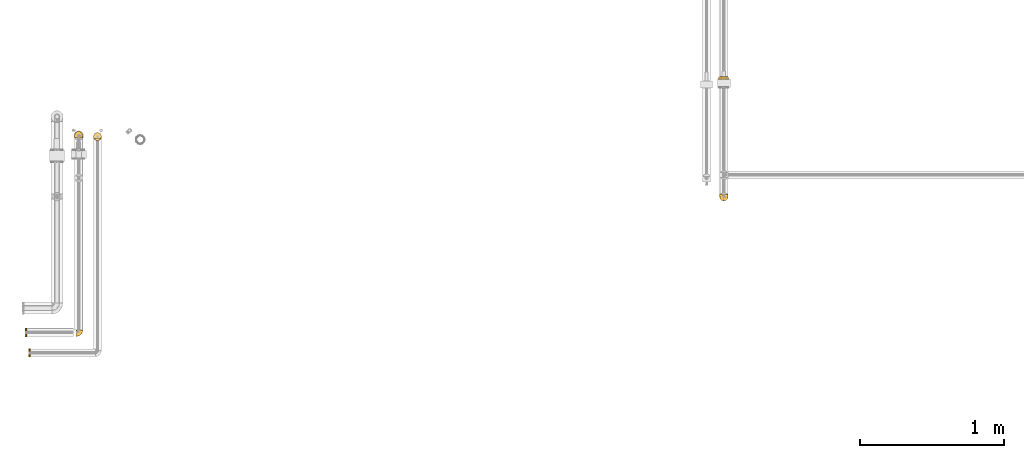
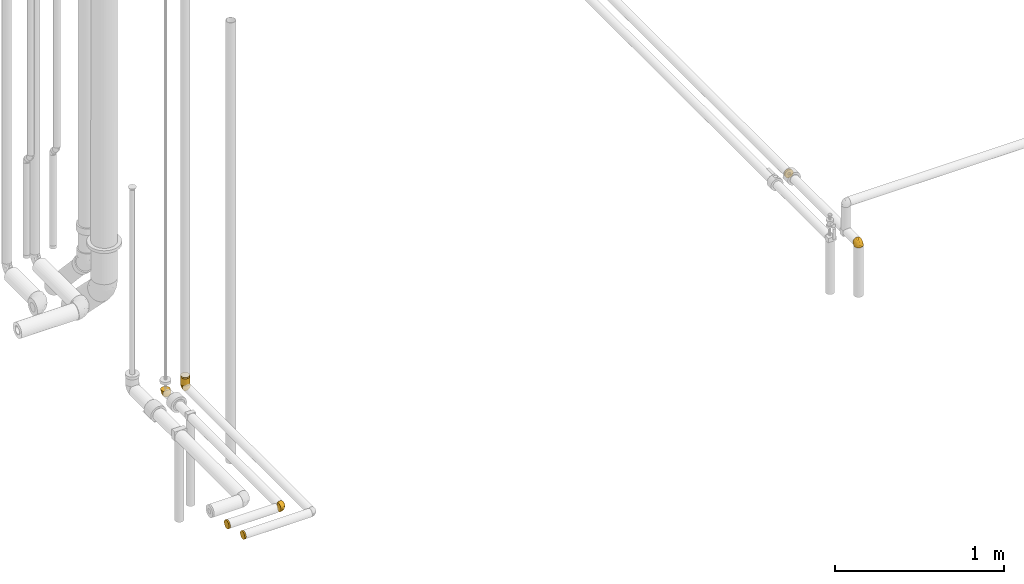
# One storey, part 4 of 78: 10 coverings.
"""IFC2X3 building model written with IfcOpenShell, lengths in millimetres."""

from ifc_helpers import new_model, entity, si_unit, converted_unit, derived_unit, direction, frame, origin_with_axes, origin_2d_with_axis, place, context, subcontext, project, spatial, hollow_circle, extrude, open_shell, surface_model, source, transform, mapped, element, save


model = new_model("IFC2X3")

# Units and contexts
model_context = context("Model", 3, precision=0.01, world=frame((0.0, 4.29681676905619e-09, 0.0)), true_north=direction((4.01073788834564e-13, 1.0)))
plan_context = context("Plan", 3, precision=0.01, world=frame((0.0, 4.29681676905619e-09, 0.0)), true_north=direction((4.01073788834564e-13, 1.0)))
body_context = subcontext(model_context, "Body", "Model", "MODEL_VIEW")
ifc_project = project(units=[converted_unit("PLANEANGLEUNIT", "DEGREE", entity("IfcPositiveLengthMeasure", 0.0174532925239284), si_unit("PLANEANGLEUNIT", "RADIAN"), dimensions=[0, 0, 0, 0, 0, 0, 0]), si_unit("AREAUNIT", "SQUARE_METRE"), si_unit("LENGTHUNIT", "METRE", prefix="MILLI"), si_unit("MASSUNIT", "GRAM", prefix="KILO"), si_unit("POWERUNIT", "WATT"), si_unit("PRESSUREUNIT", "PASCAL"), si_unit("FORCEUNIT", "NEWTON", prefix="KILO"), si_unit("ELECTRICVOLTAGEUNIT", "VOLT"), si_unit("ELECTRICCURRENTUNIT", "AMPERE"), si_unit("THERMODYNAMICTEMPERATUREUNIT", "DEGREE_CELSIUS"), si_unit("TIMEUNIT", "SECOND"), si_unit("VOLUMEUNIT", "CUBIC_METRE"), derived_unit("LINEARVELOCITYUNIT", [(si_unit("LENGTHUNIT", "METRE"), 1), (si_unit("TIMEUNIT", "SECOND"), -1)]), derived_unit("VOLUMETRICFLOWRATEUNIT", [(si_unit("VOLUMEUNIT", "CUBIC_METRE"), 1), (si_unit("TIMEUNIT", "SECOND"), -1)]), derived_unit("THERMALTRANSMITTANCEUNIT", [(si_unit("POWERUNIT", "WATT"), 1), (si_unit("THERMODYNAMICTEMPERATUREUNIT", "KELVIN"), -1), (si_unit("AREAUNIT", "SQUARE_METRE"), -1)]), derived_unit("SOUNDPRESSUREUNIT", [(si_unit("PRESSUREUNIT", "PASCAL"), 1)])], contexts=[model_context, plan_context])

# Site, building, storey
site_placement = place(None, frame((0.0, -4.29681676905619e-09, 0.0), z_axis=(0.0, 0.0, 1.0), x_axis=(1.0, 0.0, 0.0)))
site = spatial("IfcSite", under=ifc_project, at=site_placement, Name="ENGM", CompositionType="ELEMENT")
building_placement = place(site_placement, frame((0.0, 4.29681676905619e-09, 0.0), z_axis=(0.0, 0.0, 1.0), x_axis=(1.0, 0.0, 0.0)))
building = spatial("IfcBuilding", under=site, at=building_placement, Name="TH", CompositionType="ELEMENT")
storey_placement = place(building_placement, frame((0.0, 0.0, 205200.0), z_axis=(0.0, 0.0, 1.0), x_axis=(1.0, 0.0, 0.0)))
storey = spatial("IfcBuildingStorey", under=building, at=storey_placement, Name="Nivå D + 1,2 m", CompositionType="ELEMENT", Elevation=205200.0)

# Coverings
shared_shape_1 = source(origin_with_axes(), body_context, "Body", "SweptSolid", [
    extrude(hollow_circle(Radius=29.0, WallThickness=20.0, at=origin_2d_with_axis()), frame((0.0, 0.0, 0.0), z_axis=(1.0, 0.0, 0.0), x_axis=(0.0, 1.0, 0.0)), (0.0, 0.0, 1.0), 3.0),
])
covering_1_placement = place(storey_placement, frame((900010.50163, 478947.96045, 4210.0), z_axis=(0.0, 0.0, 1.0), x_axis=(0.0, -1.0, 0.0)))
element("IfcCovering", 1, at=covering_1_placement, inside=storey, Name="BI20T - Cellegummi 13 mm kalde rør", PredefinedType="INSULATION", context=body_context, shape_type="MappedRepresentation", body=[
    mapped(shared_shape_1, transform((0.0, 0.0, 0.0), scale=1.0)),
])
shared_shape_2 = source(origin_with_axes(), body_context, "Body", "SweptSolid", [
    extrude(hollow_circle(Radius=27.5, WallThickness=20.0, at=origin_2d_with_axis()), frame((0.0, 0.0, 0.0), z_axis=(1.0, 0.0, 0.0), x_axis=(0.0, 1.0, 0.0)), (0.0, 0.0, 1.0), 52.1),
])
covering_2_placement = place(storey_placement, frame((895651.15, 478542.5375, 4517.13214999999), z_axis=(1.0, 0.0, 0.0), x_axis=(0.0, 3.999999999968e-06, -0.999999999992)))
element("IfcCovering", 2, at=covering_2_placement, inside=storey, Name="Rørskål m/Al.folje - Varme 55 (uisolert oppheng)", PredefinedType="INSULATION", context=body_context, shape_type="MappedRepresentation", body=[
    mapped(shared_shape_2, transform((0.0, 0.0, 0.0), scale=1.0)),
])
shared_shape_3 = source(origin_with_axes(), body_context, "Body", "SurfaceModel", [
    surface_model("IfcShellBasedSurfaceModel", [(12.5872, 18.0, 26.12589), (18.08563, 18.0, 22.66959), (22.67648, 18.0, 18.07698), (26.13012, 18.0, 12.57843), (28.27375, 18.0, 6.44942), (-6.31725, 18.0, 28.30358), (-17.77173, 18.0, -22.9165), (0.0, 18.0, 29.0), (6.45633, 18.0, 28.27217), (-17.77173, 18.0, 22.9165), (-12.34105, 18.0, 26.24307), (28.27217, 18.0, -6.45633), (22.66959, 18.0, -18.08563), (26.12589, 18.0, -12.5872), (18.07698, 18.0, -22.67648), (-12.3529, 18.0, -26.23749), (-6.33004, 18.0, -28.30072), (6.44942, 18.0, -28.27375), (12.57843, 18.0, -26.13012), (0.0, 18.0, -29.0), (29.0, 18.0, 0.0), (-18.0, 17.77173, 22.9165), (-18.0, 17.77173, -22.9165), (-18.0, 12.34563, -26.24091), (-18.0, 6.32509, -28.30182), (-18.0, 0.0, -29.0), (-18.0, 0.0, 29.0), (-18.0, 12.34563, 26.24091), (-18.0, 6.32509, 28.30182), (-18.0, -14.5, 25.11474), (-18.0, -7.50575, 28.01185), (-18.0, -7.50575, -28.01185), (-18.0, -14.5, -25.11474), (-18.0, -28.01185, -7.50575), (-18.0, -25.11474, -14.5), (-18.0, -20.5061, -20.5061), (-18.0, -28.01185, 7.50575), (-18.0, -20.5061, 20.5061), (-18.0, -25.11474, 14.5), (-18.0, -29.0, 0.0), (-17.83859, 17.83859, 22.9165), (-17.83859, 17.83859, -22.9165), (-11.91423, 11.9123, -27.437), (-5.27208, 5.27208, -29.0), (-15.63786, 14.48961, -25.5229), (25.93601, 6.67854, -9.58205), (27.02342, 8.06308, 0.0), (-11.58944, -10.38288, -26.79251), (-8.72435, -16.42638, -23.00725), (-2.15074, -19.82057, -17.65408), (-10.78654, -22.36781, -17.65408), (-10.90925, -4.53647, -28.44912), (-4.56412, -7.81008, -26.79251), (1.42942, -22.15165, -11.53878), (4.08186, -22.64535, -6.52508), (-4.04847, -26.34204, -5.44064), (-6.34693, -25.25014, -11.09782), (8.70204, 11.12014, -27.37401), (12.30526, -12.14334, -15.12435), (15.68692, -5.11925, -17.84797), (18.58838, -6.20359, -13.10629), (-1.45635, 14.48406, -29.0), (20.49628, -7.02537, -7.85654), (-14.48406, 1.45635, -29.0), (17.63513, 1.45693, -19.69333), (20.97621, 0.92546, -15.43347), (14.81555, 11.64794, -24.55768), (19.28448, 8.39344, -20.51001), (12.61582, 4.58807, -24.55768), (4.16849, 4.09476, -27.82577), (3.89702, -4.58536, -25.68841), (-2.23671, -1.20763, -28.17991), (0.57021, -13.0879, -22.56817), (9.4476, -9.00088, -20.51001), (23.77672, 9.91353, -15.43347), (25.42234, 0.01388, 0.0), (15.09054, -13.36351, -8.92567), (-8.45406, 3.95406, -29.0), (-6.64688, -2.8871, -28.41954), (-11.63604, 2.63604, -29.0), (-2.9127, 10.96811, -29.0), (15.23402, -15.23402, 0.0), (20.32818, -7.61007, 0.0), (8.70429, -18.28971, -10.43847), (11.53611, -17.98985, -5.04364), (5.36399, -15.33486, -18.03817), (-8.06308, -27.02342, 0.0), (8.1898, 0.02909, -25.52631), (12.51117, -2.09819, -22.30296), (-4.09239, 8.1201, -29.0), (-0.01388, -25.42234, 0.0), (7.61007, -20.32818, 0.0), (-2.15312, -19.82156, 17.65408), (0.57215, -13.08608, 22.56863), (-8.72508, -16.42658, 23.00725), (-4.04847, -26.34203, 5.4407), (-10.78795, -22.36806, 17.65408), (-6.34785, -25.25039, 11.09782), (25.939, 6.67899, 9.57411), (1.43206, -22.14749, 11.54476), (-11.58944, -10.38288, 26.79251), (20.50587, -7.01305, 7.85179), (20.98134, 0.92337, 15.42467), (4.16859, 4.08516, 27.82424), (8.70955, 11.11747, 27.37123), (-2.9127, 10.96811, 29.0), (8.71076, -18.28571, 10.43687), (11.53628, -17.99007, 5.04207), (15.09914, -13.35631, 8.92169), (12.51139, -2.10414, 22.30009), (8.20363, 0.03075, 25.52066), (3.90743, -4.56802, 25.69113), (-2.23663, -1.20773, 28.17988), (-6.92531, -2.24067, 28.55295), (-4.56412, -7.81008, 26.79251), (15.69231, -5.11628, 17.84442), (9.45318, -9.00636, 20.50219), (12.31497, -12.1393, 15.11775), (23.78211, 9.91229, 15.42467), (19.29205, 8.39148, 20.50219), (14.82422, 11.64641, 24.55215), (12.62384, 4.58443, 24.55215), (17.64599, 1.45836, 19.68333), (-11.63604, 2.63604, 29.0), (-14.48406, 1.45635, 29.0), (-10.90925, -4.53647, 28.44912), (5.3697, -15.3417, 18.027), (-1.45635, 14.48406, 29.0), (4.08207, -22.64476, 6.52689), (-5.27208, 5.27208, 29.0), (-4.09239, 8.1201, 29.0), (-8.45406, 3.95406, 29.0), (18.10711, -6.95019, 13.06771), (-11.91423, 11.9123, 27.437), (-10.60868, 7.01569, 28.60662)], [open_shell([[[0, 1, 2]], [[2, 3, 4]], [[0, 2, 5]], [[2, 6, 5]], [[7, 8, 0]], [[6, 9, 10]], [[6, 10, 5]], [[7, 0, 5]], [[2, 4, 6]], [[4, 11, 6]], [[11, 12, 6]], [[12, 11, 13]], [[14, 6, 12]], [[15, 6, 16]], [[17, 14, 18]], [[6, 14, 17]], [[19, 16, 6]], [[19, 6, 17]], [[11, 4, 20]], [[21, 22, 23]], [[24, 25, 23]], [[26, 23, 25]], [[27, 21, 28]], [[21, 26, 28]], [[21, 23, 26]], [[26, 29, 30]], [[26, 25, 29]], [[31, 32, 33]], [[34, 33, 32]], [[34, 32, 35]], [[31, 33, 36]], [[37, 29, 36]], [[37, 36, 38]], [[29, 31, 36]], [[33, 39, 36]], [[31, 29, 25]], [[22, 21, 40]], [[41, 22, 40]], [[9, 6, 40]], [[41, 40, 6]], [[42, 24, 23]], [[25, 24, 43]], [[43, 24, 42]], [[42, 23, 44]], [[22, 41, 44]], [[41, 6, 15]], [[19, 43, 16]], [[15, 44, 41]], [[22, 44, 23]], [[15, 16, 42]], [[15, 42, 44]], [[43, 42, 16]], [[45, 11, 46]], [[32, 31, 47]], [[45, 13, 11]], [[48, 49, 50]], [[47, 51, 52]], [[53, 54, 55]], [[55, 33, 56]], [[18, 57, 17]], [[50, 34, 35]], [[35, 32, 48]], [[58, 59, 60]], [[34, 50, 56]], [[17, 61, 19]], [[45, 62, 60]], [[31, 25, 63]], [[64, 65, 59]], [[66, 67, 68]], [[69, 70, 71]], [[18, 66, 57]], [[66, 18, 14]], [[72, 70, 73]], [[67, 14, 12]], [[74, 67, 12]], [[62, 45, 75]], [[64, 67, 65]], [[58, 60, 76]], [[12, 13, 74]], [[49, 48, 72]], [[75, 45, 46]], [[65, 74, 45]], [[34, 56, 33]], [[77, 78, 79]], [[69, 80, 57]], [[57, 61, 17]], [[81, 62, 82]], [[69, 57, 68]], [[83, 84, 54]], [[47, 48, 32]], [[72, 73, 85]], [[53, 83, 54]], [[33, 55, 86]], [[58, 85, 73]], [[43, 69, 71]], [[70, 87, 88]], [[69, 43, 89]], [[11, 20, 46]], [[45, 74, 13]], [[67, 74, 65]], [[67, 66, 14]], [[57, 66, 68]], [[63, 51, 31]], [[48, 47, 52]], [[48, 52, 72]], [[70, 72, 52]], [[52, 51, 78]], [[88, 87, 68]], [[51, 63, 79]], [[71, 77, 43]], [[31, 51, 47]], [[71, 52, 78]], [[79, 78, 51]], [[52, 71, 70]], [[86, 55, 90]], [[86, 39, 33]], [[84, 81, 91]], [[91, 90, 54]], [[55, 54, 90]], [[76, 84, 83]], [[91, 54, 84]], [[53, 55, 56]], [[56, 49, 53]], [[85, 53, 49]], [[58, 76, 83]], [[76, 62, 81]], [[83, 53, 85]], [[59, 58, 73]], [[83, 85, 58]], [[72, 85, 49]], [[88, 59, 73]], [[60, 59, 65]], [[70, 88, 73]], [[64, 68, 67]], [[70, 69, 87]], [[69, 68, 87]], [[45, 60, 65]], [[60, 62, 76]], [[59, 88, 64]], [[68, 64, 88]], [[48, 50, 35]], [[56, 50, 49]], [[57, 80, 61]], [[62, 75, 82]], [[81, 84, 76]], [[89, 80, 69]], [[77, 71, 78]], [[92, 93, 94]], [[90, 95, 86]], [[96, 97, 92]], [[3, 98, 4]], [[38, 36, 97]], [[95, 99, 97]], [[30, 29, 100]], [[101, 98, 102]], [[103, 104, 105]], [[104, 0, 8]], [[106, 107, 108]], [[29, 37, 94]], [[109, 110, 111]], [[112, 113, 114]], [[37, 38, 96]], [[115, 116, 117]], [[102, 118, 119]], [[1, 119, 2]], [[37, 96, 94]], [[98, 3, 118]], [[98, 46, 4]], [[1, 0, 120]], [[121, 109, 122]], [[121, 104, 103]], [[104, 121, 120]], [[101, 75, 98]], [[109, 116, 115]], [[123, 124, 125]], [[117, 126, 106]], [[93, 111, 114]], [[30, 124, 26]], [[120, 119, 1]], [[81, 101, 108]], [[3, 2, 118]], [[8, 127, 104]], [[119, 118, 2]], [[101, 81, 82]], [[36, 86, 95]], [[95, 128, 99]], [[90, 91, 128]], [[106, 108, 117]], [[92, 126, 93]], [[100, 94, 114]], [[129, 103, 130]], [[112, 131, 113]], [[46, 98, 75]], [[46, 20, 4]], [[98, 118, 102]], [[104, 120, 0]], [[119, 120, 121]], [[94, 100, 29]], [[125, 30, 100]], [[111, 93, 116]], [[114, 94, 93]], [[111, 116, 109]], [[103, 129, 112]], [[112, 114, 111]], [[30, 125, 124]], [[114, 125, 100]], [[131, 112, 129]], [[125, 113, 123]], [[103, 112, 111]], [[36, 39, 86]], [[107, 128, 91]], [[36, 95, 97]], [[108, 107, 81]], [[81, 107, 91]], [[128, 107, 106]], [[128, 106, 99]], [[128, 95, 90]], [[126, 99, 106]], [[92, 97, 99]], [[103, 105, 130]], [[115, 132, 102]], [[108, 101, 132]], [[126, 117, 116]], [[132, 115, 117]], [[102, 119, 122]], [[122, 115, 102]], [[109, 121, 110]], [[121, 103, 110]], [[103, 111, 110]], [[93, 126, 116]], [[126, 92, 99]], [[108, 132, 117]], [[102, 132, 101]], [[121, 122, 119]], [[109, 115, 122]], [[97, 96, 38]], [[94, 96, 92]], [[127, 8, 7]], [[127, 105, 104]], [[82, 75, 101]], [[123, 113, 131]], [[114, 113, 125]], [[133, 27, 28]], [[21, 27, 40]], [[40, 27, 133]], [[133, 28, 134]], [[26, 129, 134]], [[129, 7, 5]], [[9, 40, 10]], [[5, 134, 129]], [[26, 134, 28]], [[5, 10, 133]], [[5, 133, 134]], [[40, 133, 10]]])]),
])
covering_3_placement = place(storey_placement, frame((895520.48466, 478549.2375, 4450.0), z_axis=(-1.0, 0.0, 0.0), x_axis=(0.0, 3.999999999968e-06, -0.999999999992)))
element("IfcCovering", 3, at=covering_3_placement, inside=storey, Name="Rørskål m/Al.folje - Varme 55 (uisolert oppheng)", PredefinedType="INSULATION", context=body_context, shape_type="MappedRepresentation", body=[
    mapped(shared_shape_3, transform((0.0, 0.0, 0.0), scale=1.0)),
])
covering_4_placement = place(storey_placement, frame((900010.50163, 478124.37013, 4210.0), z_axis=(-1.0, 0.0, 0.0), x_axis=(0.0, 0.0, 1.0)))
element("IfcCovering", 4, at=covering_4_placement, inside=storey, Name="BI20T - Cellegummi 13 mm kalde rør", PredefinedType="INSULATION", context=body_context, shape_type="MappedRepresentation", body=[
    mapped(shared_shape_3, transform((0.0, 0.0, 0.0), scale=1.0)),
])
covering_5_placement = place(storey_placement, frame((895520.48466, 477179.63068, 4450.0), z_axis=(0.0, 0.0, 1.0), x_axis=(1.0, 0.0, 0.0)))
element("IfcCovering", 5, at=covering_5_placement, inside=storey, Name="Rørskål m/Al.folje - Varme 55 (uisolert oppheng)", PredefinedType="INSULATION", context=body_context, shape_type="MappedRepresentation", body=[
    mapped(shared_shape_3, transform((0.0, 0.0, 0.0), scale=1.0)),
])
shared_shape_4 = source(origin_with_axes(), body_context, "Body", "SurfaceModel", [
    surface_model("IfcShellBasedSurfaceModel", [(0.0, 0.0, 29.0), (0.0, 7.50575, 28.01185), (0.0, 14.5, 25.11474), (0.0, -20.5061, 20.5061), (0.0, 25.11474, 14.5), (0.0, 20.5061, 20.5061), (0.0, 25.11474, -14.5), (0.0, -7.50575, 28.01185), (0.0, -14.5, 25.11474), (0.0, -28.01185, 7.50575), (0.0, -25.11474, 14.5), (0.0, -28.01185, -7.50575), (0.0, -29.0, 0.0), (0.0, 29.0, 0.0), (0.0, 28.01185, 7.50575), (0.0, 28.01185, -7.50575), (0.0, 14.5, -25.11474), (0.0, 20.5061, -20.5061), (0.0, 7.50575, -28.01185), (0.0, 0.0, -29.0), (0.0, -20.5061, -20.5061), (0.0, -25.11474, -14.5), (0.0, -14.5, -25.11474), (0.0, -7.50575, -28.01185), (10.0, 14.5, -25.11474), (10.0, 0.0, -29.0), (10.0, 7.50575, -28.01185), (10.0, 25.11474, -14.5), (10.0, 20.5061, -20.5061), (10.0, 28.01185, -7.50575), (10.0, 29.0, 0.0), (10.0, -28.01185, 7.50575), (10.0, -14.5, -25.11474), (10.0, -7.50575, -28.01185), (10.0, -28.01185, -7.50575), (10.0, -20.5061, -20.5061), (10.0, -25.11474, -14.5), (10.0, 28.01185, 7.50575), (10.0, 0.0, 29.0), (10.0, 25.11474, 14.5), (10.0, 14.5, 25.11474), (10.0, 20.5061, 20.5061), (10.0, 7.50575, 28.01185), (10.0, -7.50575, 28.01185), (10.0, -20.5061, 20.5061), (10.0, -25.11474, 14.5), (10.0, -29.0, 0.0), (10.0, -14.5, 25.11474)], [open_shell([[[0, 1, 2]], [[3, 0, 2]], [[3, 2, 4]], [[4, 2, 5]], [[4, 6, 3]], [[7, 3, 8]], [[7, 0, 3]], [[3, 9, 10]], [[3, 6, 9]], [[9, 11, 12]], [[13, 4, 14]], [[13, 15, 6]], [[9, 6, 11]], [[6, 16, 11]], [[16, 6, 17]], [[18, 19, 16]], [[11, 20, 21]], [[20, 11, 22]], [[22, 19, 23]], [[19, 22, 11]], [[11, 16, 19]], [[6, 4, 13]], [[24, 25, 26]], [[27, 24, 28]], [[27, 29, 30]], [[25, 24, 27]], [[27, 31, 25]], [[25, 32, 33]], [[32, 25, 34]], [[35, 34, 36]], [[34, 35, 32]], [[34, 25, 31]], [[27, 30, 37]], [[38, 37, 39]], [[40, 39, 41]], [[40, 42, 38]], [[40, 38, 39]], [[37, 38, 43]], [[31, 44, 45]], [[46, 34, 31]], [[44, 43, 47]], [[31, 27, 44]], [[44, 27, 43]], [[37, 43, 27]], [[37, 13, 14]], [[39, 14, 4]], [[30, 13, 37]], [[39, 37, 14]], [[41, 39, 4]], [[4, 5, 41]], [[40, 5, 2]], [[42, 2, 1]], [[40, 2, 42]], [[38, 42, 1]], [[0, 38, 1]], [[5, 40, 41]], [[43, 0, 7]], [[47, 7, 8]], [[38, 0, 43]], [[47, 43, 7]], [[44, 47, 8]], [[8, 3, 44]], [[45, 3, 10]], [[31, 10, 9]], [[45, 10, 31]], [[46, 31, 9]], [[12, 46, 9]], [[3, 45, 44]], [[34, 12, 11]], [[36, 11, 21]], [[46, 12, 34]], [[36, 34, 11]], [[35, 36, 21]], [[21, 20, 35]], [[32, 20, 22]], [[33, 22, 23]], [[32, 22, 33]], [[25, 33, 23]], [[19, 25, 23]], [[20, 32, 35]], [[26, 19, 18]], [[24, 18, 16]], [[25, 19, 26]], [[24, 26, 18]], [[28, 24, 16]], [[16, 17, 28]], [[27, 17, 6]], [[29, 6, 15]], [[27, 6, 29]], [[30, 29, 15]], [[13, 30, 15]], [[17, 27, 28]]])]),
])
covering_6_placement = place(storey_placement, frame((900010.50163, 478957.96045, 4210.0), z_axis=(0.0, 0.0, 1.0), x_axis=(0.0, -1.0, 0.0)))
element("IfcCovering", 6, at=covering_6_placement, inside=storey, Name="BI20T - Cellegummi 13 mm kalde rør", PredefinedType="INSULATION", context=body_context, shape_type="MappedRepresentation", body=[
    mapped(shared_shape_4, transform((0.0, 0.0, 0.0), scale=1.0)),
])
covering_7_placement = place(storey_placement, frame((895147.49734, 477179.65305, 4450.0), z_axis=(0.0, 0.0, 1.0), x_axis=(1.0, 0.0, 0.0)))
element("IfcCovering", 7, at=covering_7_placement, inside=storey, Name="Rørskål m/Al.folje - Varme 55 (uisolert oppheng)", PredefinedType="INSULATION", context=body_context, shape_type="MappedRepresentation", body=[
    mapped(shared_shape_4, transform((0.0, 0.0, 0.0), scale=1.0)),
])
shared_shape_5 = source(origin_with_axes(), body_context, "Body", "SurfaceModel", [
    surface_model("IfcShellBasedSurfaceModel", [(0.0, 15.0, 27.5), (11.93614, 15.0, 24.77456), (17.15016, 15.0, 21.49702), (21.50356, 15.0, 17.14197), (24.77856, 15.0, 11.92782), (26.81132, 15.0, 6.11583), (-14.76876, 15.0, -23.19771), (-5.16248, 15.0, 27.01109), (-10.14354, 15.0, 25.56088), (-14.76876, 15.0, 23.19771), (6.12238, 15.0, 26.80982), (26.80982, 15.0, -6.12238), (24.77456, 15.0, -11.93614), (21.49702, 15.0, -17.15016), (17.14197, 15.0, -21.50356), (11.92782, 15.0, -24.77856), (-10.15137, 15.0, -25.55777), (-5.17075, 15.0, -27.0095), (6.11583, 15.0, -26.81132), (0.0, 15.0, -27.5), (27.5, 15.0, 0.0), (-15.0, 14.76876, 23.19771), (-15.0, 14.76876, -23.19771), (-15.0, 10.14805, -25.55909), (-15.0, -13.75, 23.8157), (-15.0, 0.0, 27.5), (-15.0, 5.16599, -27.01042), (-15.0, 10.14805, 25.55909), (-15.0, 5.16599, 27.01042), (-15.0, -7.11752, 26.56296), (-15.0, 0.0, -27.5), (-15.0, -13.75, -23.8157), (-15.0, -23.8157, -13.75), (-15.0, -19.44544, -19.44544), (-15.0, -27.5, 0.0), (-15.0, -26.56296, -7.11752), (-15.0, -19.44544, 19.44544), (-15.0, -23.8157, 13.75), (-15.0, -26.56296, 7.11752), (-15.0, -7.11752, -26.56296), (-14.83649, 14.83649, 23.19771), (-14.83649, 14.83649, -23.19771), (-9.83314, 9.83084, -26.40253), (-4.3934, 4.3934, -27.5), (-12.83947, 12.05061, -25.05125), (-4.48793, -24.01534, -10.52379), (-11.98334, 1.24954, -27.5), (-9.37684, -9.89667, -25.40669), (-8.82333, -4.41336, -26.97014), (-7.04505, 3.29505, -27.5), (-5.1718, -3.02029, -26.93903), (-9.6967, 2.1967, -27.5), (24.65994, 4.7804, -9.08643), (1.06278, -23.77897, -5.3526), (6.25, -21.80608, 0.0), (-4.375, -24.65304, 0.0), (1.54868, -12.7037, -21.40086), (4.32424, -4.93171, -24.3597), (9.55297, -9.15335, -19.44914), (-6.74238, -15.64799, -21.81722), (-1.24954, 11.98334, -27.5), (-8.5236, -21.24312, -16.74094), (-0.77018, -18.95614, -16.74094), (8.31737, 8.99221, -25.95811), (15.40258, -1.18426, -19.44893), (18.35244, 6.40655, -19.44914), (20.06511, -0.36118, -14.63519), (12.13715, 3.11198, -23.28745), (14.08693, 9.36968, -23.28745), (14.85125, -14.38152, -5.78233), (21.80608, -6.25, 0.0), (14.02804, -14.02804, 0.0), (4.36843, 2.94628, -26.36681), (-1.36459, -1.6148, -26.72233), (25.07086, 5.93431, 0.0), (20.29431, -6.45586, -8.02095), (22.58459, 7.72498, -14.63519), (-2.49909, 8.96667, -27.5), (8.33474, -14.73903, -15.37407), (2.78643, -21.46003, -10.12782), (-7.07519, -26.25186, -5.1881), (15.0344, -9.43108, -13.92095), (10.00026, -3.0542, -22.48144), (8.16542, -20.09043, -4.96929), (-3.21442, -7.63988, -25.40669), (9.46251, -17.5384, -9.76399), (-4.49126, -24.01624, 10.52379), (-7.07517, -26.25186, 5.18812), (2.7851, -21.45964, 10.13017), (-0.77879, -18.95975, 16.74094), (-8.52869, -21.24403, 16.74094), (10.00623, -3.06404, 22.47397), (4.36772, 2.93777, 26.36566), (4.32909, -4.93518, 24.35662), (14.09461, 9.36543, 23.28221), (18.35902, 6.40238, 19.44173), (-1.36241, -1.61745, 26.7215), (-5.47085, -2.34739, 27.07921), (-3.21442, -7.63988, 25.40669), (15.40846, -1.18809, 19.44194), (12.14263, 3.10369, 23.28221), (-6.745, -15.64869, 21.81722), (8.32409, 8.9881, 25.95548), (20.06721, -0.36943, 14.62684), (22.58901, 7.7202, 14.62684), (-9.37684, -9.89667, 25.40669), (-2.49909, 8.96667, 27.5), (1.54508, -12.70941, 21.39839), (20.30092, -6.44893, 8.01422), (24.66205, 4.77802, 9.0789), (-11.98334, 1.24954, 27.5), (15.03275, -9.44266, 13.91067), (-8.82333, -4.41336, 26.97014), (-1.24954, 11.98334, 27.5), (-9.6967, 2.1967, 27.5), (-7.04505, 3.29505, 27.5), (1.06272, -23.77883, 5.35336), (9.46283, -17.53693, 9.7666), (8.16718, -20.08904, 4.97031), (14.85491, -14.37711, 5.78458), (8.34277, -14.73848, 15.36735), (-4.3934, 4.3934, 27.5), (9.54904, -9.16792, 19.44173), (-9.83314, 9.83084, 26.40253), (-8.43135, 6.03295, 27.22427)], [open_shell([[[0, 1, 2]], [[3, 4, 5]], [[0, 2, 6]], [[6, 2, 3]], [[7, 0, 8]], [[6, 8, 0]], [[9, 8, 6]], [[1, 0, 10]], [[11, 3, 5]], [[11, 12, 3]], [[6, 12, 13]], [[12, 6, 3]], [[13, 14, 15]], [[16, 6, 17]], [[15, 6, 13]], [[18, 6, 15]], [[19, 17, 6]], [[19, 6, 18]], [[11, 5, 20]], [[21, 22, 23]], [[24, 25, 23]], [[23, 26, 24]], [[27, 21, 25]], [[27, 25, 28]], [[21, 23, 25]], [[25, 24, 29]], [[26, 30, 24]], [[30, 31, 24]], [[24, 31, 32]], [[32, 31, 33]], [[34, 32, 35]], [[36, 24, 37]], [[37, 34, 38]], [[37, 24, 32]], [[32, 34, 37]], [[31, 30, 39]], [[22, 21, 40]], [[41, 22, 40]], [[9, 6, 40]], [[41, 40, 6]], [[42, 26, 23]], [[30, 26, 43]], [[43, 26, 42]], [[42, 23, 44]], [[22, 41, 44]], [[41, 6, 16]], [[19, 43, 17]], [[16, 44, 41]], [[22, 44, 23]], [[16, 17, 42]], [[16, 42, 44]], [[43, 42, 17]], [[32, 45, 35]], [[39, 30, 46]], [[47, 31, 39]], [[39, 48, 47]], [[49, 50, 51]], [[12, 11, 52]], [[53, 54, 55]], [[56, 57, 58]], [[31, 59, 33]], [[18, 60, 19]], [[33, 61, 32]], [[32, 61, 45]], [[59, 62, 61]], [[15, 63, 18]], [[60, 18, 63]], [[64, 65, 66]], [[65, 14, 13]], [[67, 68, 65]], [[69, 70, 71]], [[15, 68, 63]], [[72, 57, 73]], [[11, 20, 74]], [[67, 65, 64]], [[66, 52, 75]], [[13, 12, 76]], [[62, 59, 56]], [[52, 70, 75]], [[76, 65, 13]], [[52, 76, 12]], [[66, 76, 52]], [[72, 77, 63]], [[68, 15, 14]], [[11, 74, 52]], [[72, 63, 67]], [[70, 52, 74]], [[47, 59, 31]], [[56, 58, 78]], [[62, 78, 79]], [[45, 53, 80]], [[58, 81, 78]], [[81, 66, 75]], [[64, 82, 67]], [[43, 77, 72]], [[71, 83, 69]], [[81, 58, 64]], [[53, 83, 54]], [[35, 80, 34]], [[65, 76, 66]], [[65, 68, 14]], [[63, 68, 67]], [[46, 48, 39]], [[59, 47, 84]], [[59, 84, 56]], [[57, 56, 84]], [[84, 48, 50]], [[82, 72, 67]], [[69, 81, 75]], [[83, 71, 54]], [[78, 81, 85]], [[46, 51, 48]], [[43, 73, 49]], [[84, 47, 48]], [[73, 84, 50]], [[72, 73, 43]], [[84, 73, 57]], [[80, 53, 55]], [[79, 53, 45]], [[34, 80, 55]], [[45, 80, 35]], [[81, 64, 66]], [[82, 58, 57]], [[58, 82, 64]], [[72, 82, 57]], [[79, 78, 85]], [[56, 78, 62]], [[59, 61, 33]], [[45, 61, 62]], [[62, 79, 45]], [[83, 79, 85]], [[79, 83, 53]], [[83, 85, 69]], [[81, 69, 85]], [[70, 69, 75]], [[63, 77, 60]], [[51, 50, 48]], [[49, 73, 50]], [[37, 38, 86]], [[34, 55, 87]], [[86, 88, 89]], [[86, 89, 90]], [[91, 92, 93]], [[94, 95, 2]], [[96, 97, 98]], [[99, 95, 100]], [[36, 101, 24]], [[100, 102, 92]], [[95, 103, 104]], [[105, 29, 24]], [[92, 102, 106]], [[89, 107, 101]], [[108, 70, 109]], [[29, 110, 25]], [[95, 3, 2]], [[74, 109, 70]], [[111, 108, 103]], [[109, 5, 4]], [[74, 20, 5]], [[36, 90, 101]], [[1, 94, 2]], [[110, 29, 112]], [[99, 103, 95]], [[36, 37, 90]], [[102, 1, 10]], [[93, 98, 107]], [[104, 109, 4]], [[94, 102, 100]], [[10, 113, 102]], [[4, 3, 104]], [[109, 103, 108]], [[114, 97, 115]], [[74, 5, 109]], [[55, 54, 116]], [[116, 88, 86]], [[117, 118, 119]], [[120, 117, 111]], [[89, 120, 107]], [[105, 101, 98]], [[106, 121, 92]], [[96, 115, 97]], [[103, 99, 111]], [[71, 119, 118]], [[55, 116, 87]], [[95, 104, 3]], [[109, 104, 103]], [[102, 94, 1]], [[95, 94, 100]], [[101, 105, 24]], [[112, 29, 105]], [[93, 107, 122]], [[108, 119, 70]], [[98, 101, 107]], [[122, 99, 91]], [[96, 92, 121]], [[120, 111, 122]], [[119, 111, 117]], [[110, 112, 114]], [[105, 98, 112]], [[96, 98, 93]], [[115, 96, 121]], [[112, 97, 114]], [[92, 96, 93]], [[118, 116, 54]], [[87, 86, 38]], [[86, 87, 116]], [[34, 87, 38]], [[91, 99, 100]], [[111, 99, 122]], [[92, 91, 100]], [[122, 91, 93]], [[107, 120, 122]], [[88, 120, 89]], [[86, 90, 37]], [[101, 90, 89]], [[71, 118, 54]], [[88, 118, 117]], [[70, 119, 71]], [[111, 119, 108]], [[118, 88, 116]], [[88, 117, 120]], [[113, 10, 0]], [[113, 106, 102]], [[98, 97, 112]], [[123, 27, 28]], [[21, 27, 40]], [[40, 27, 123]], [[123, 28, 124]], [[25, 121, 124]], [[121, 0, 7]], [[9, 40, 8]], [[7, 124, 121]], [[25, 124, 28]], [[7, 8, 123]], [[7, 123, 124]], [[40, 123, 8]]])]),
])
covering_8_placement = place(storey_placement, frame((895651.15, 478542.5375, 4450.0), z_axis=(1.0, 0.0, 0.0), x_axis=(0.0, 1.0, 0.0)))
element("IfcCovering", 8, at=covering_8_placement, inside=storey, Name="Rørskål m/Al.folje - Varme 55 (uisolert oppheng)", PredefinedType="INSULATION", context=body_context, shape_type="MappedRepresentation", body=[
    mapped(shared_shape_5, transform((0.0, 0.0, 0.0), scale=1.0)),
])
shared_shape_6 = source(origin_with_axes(), body_context, "Body", "SurfaceModel", [
    surface_model("IfcShellBasedSurfaceModel", [(0.0, 0.0, 27.5), (0.0, 7.11752, 26.56296), (0.0, 13.75, 23.8157), (0.0, -19.44544, 19.44544), (0.0, 23.8157, 13.75), (0.0, 19.44544, 19.44544), (0.0, 23.8157, -13.75), (0.0, -23.8157, 13.75), (0.0, -7.11752, 26.56296), (0.0, -13.75, 23.8157), (0.0, -27.5, 0.0), (0.0, -26.56296, 7.11752), (0.0, -23.8157, -13.75), (0.0, 26.56296, 7.11752), (0.0, 26.56296, -7.11752), (0.0, 13.75, -23.8157), (0.0, 19.44544, -19.44544), (0.0, -13.75, -23.8157), (0.0, 7.11752, -26.56296), (0.0, -19.44544, -19.44544), (0.0, -26.56296, -7.11752), (0.0, 0.0, -27.5), (0.0, -7.11752, -26.56296), (0.0, 27.5, 0.0), (10.0, -13.75, -23.8157), (10.0, 7.11752, -26.56296), (10.0, -27.5, 0.0), (10.0, 23.8157, -13.75), (10.0, 13.75, -23.8157), (10.0, 19.44544, -19.44544), (10.0, 26.56296, -7.11752), (10.0, 0.0, -27.5), (10.0, -7.11752, -26.56296), (10.0, -23.8157, -13.75), (10.0, -19.44544, -19.44544), (10.0, -26.56296, -7.11752), (10.0, 26.56296, 7.11752), (10.0, 27.5, 0.0), (10.0, -23.8157, 13.75), (10.0, 23.8157, 13.75), (10.0, 13.75, 23.8157), (10.0, 19.44544, 19.44544), (10.0, 7.11752, 26.56296), (10.0, 0.0, 27.5), (10.0, -26.56296, 7.11752), (10.0, -19.44544, 19.44544), (10.0, -7.11752, 26.56296), (10.0, -13.75, 23.8157)], [open_shell([[[0, 1, 2]], [[3, 0, 2]], [[3, 2, 4]], [[4, 2, 5]], [[6, 7, 4]], [[8, 3, 9]], [[8, 0, 3]], [[7, 10, 11]], [[3, 4, 7]], [[7, 12, 10]], [[6, 4, 13]], [[14, 6, 13]], [[6, 12, 7]], [[12, 6, 15]], [[15, 6, 16]], [[17, 15, 18]], [[12, 17, 19]], [[20, 10, 12]], [[17, 21, 22]], [[17, 12, 15]], [[21, 17, 18]], [[13, 23, 14]], [[24, 25, 26]], [[27, 28, 29]], [[26, 27, 30]], [[25, 28, 26]], [[27, 26, 28]], [[31, 24, 32]], [[31, 25, 24]], [[24, 33, 34]], [[24, 26, 33]], [[33, 26, 35]], [[36, 30, 37]], [[38, 30, 39]], [[40, 39, 41]], [[40, 42, 43]], [[40, 43, 39]], [[38, 39, 43]], [[26, 38, 44]], [[30, 38, 26]], [[45, 46, 47]], [[45, 38, 43]], [[46, 45, 43]], [[30, 36, 39]], [[36, 23, 13]], [[39, 13, 4]], [[37, 23, 36]], [[39, 36, 13]], [[41, 39, 4]], [[4, 5, 41]], [[40, 5, 2]], [[42, 2, 1]], [[40, 2, 42]], [[43, 42, 1]], [[0, 43, 1]], [[5, 40, 41]], [[46, 0, 8]], [[47, 8, 9]], [[43, 0, 46]], [[47, 46, 8]], [[45, 47, 9]], [[9, 3, 45]], [[38, 3, 7]], [[44, 7, 11]], [[38, 7, 44]], [[26, 44, 11]], [[10, 26, 11]], [[3, 38, 45]], [[35, 10, 20]], [[33, 20, 12]], [[26, 10, 35]], [[33, 35, 20]], [[34, 33, 12]], [[12, 19, 34]], [[24, 19, 17]], [[32, 17, 22]], [[24, 17, 32]], [[31, 32, 22]], [[21, 31, 22]], [[19, 24, 34]], [[25, 21, 18]], [[28, 18, 15]], [[31, 21, 25]], [[28, 25, 18]], [[29, 28, 15]], [[15, 16, 29]], [[27, 16, 6]], [[30, 6, 14]], [[27, 6, 30]], [[37, 30, 14]], [[23, 37, 14]], [[16, 27, 29]]])]),
])
for number, where, z_axis, x_axis, name in (
    (9, (895651.15, 478542.5375, 4527.13214999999), (1.0, 0.0, 0.0), (0.0, 3.999999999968e-06, -0.999999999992), "Rørskål m/Al.folje - Varme 55 (uisolert oppheng)"),
    (10, (895174.14071, 477037.61197, 4450.0), (0.0, 0.0, 1.0), (1.0, 0.0, 0.0), "Rørskål m/Al.folje - Varme 55 (uisolert oppheng)"),
):
    element("IfcCovering", number, at=place(storey_placement, frame(where, z_axis=z_axis, x_axis=x_axis)), inside=storey, Name=name, PredefinedType="INSULATION", context=body_context, shape_type="MappedRepresentation", body=[
        mapped(shared_shape_6, transform((0.0, 0.0, 0.0), scale=1.0)),
    ])

save(model, "model.ifc")
